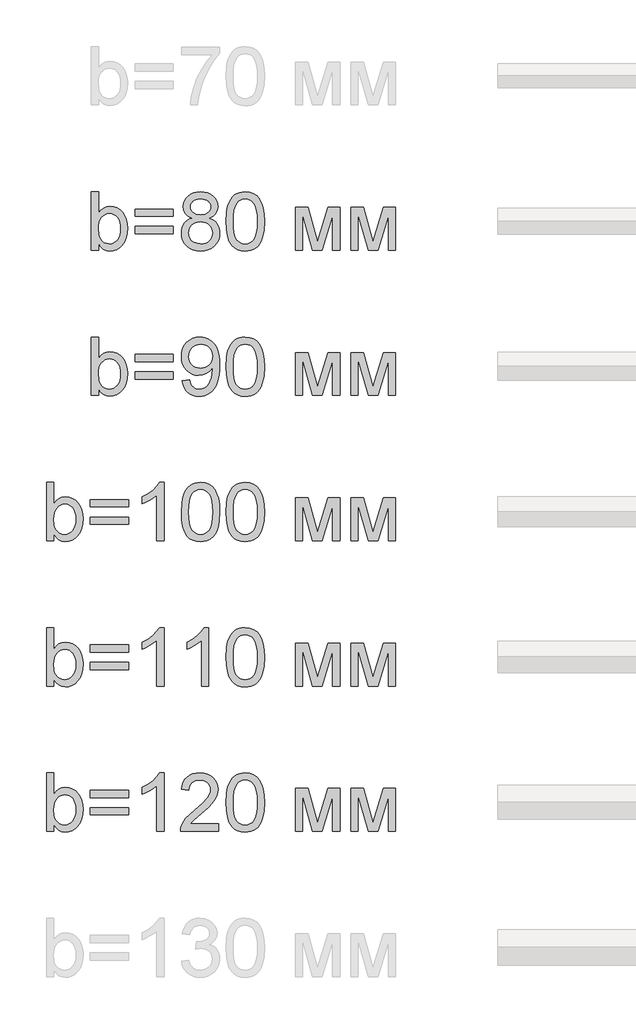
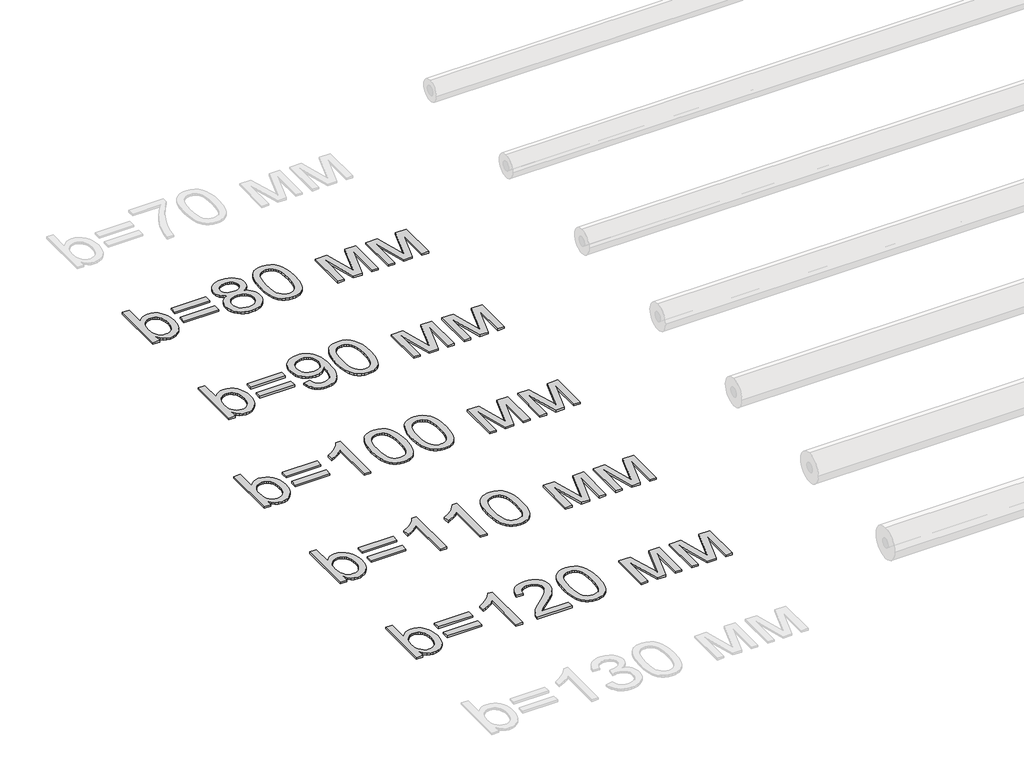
# One storey, part 45 of 86: 5 proxies.
"""IFC4 building model written with IfcOpenShell, lengths in millimetres."""

from ifc_helpers import new_model, si_unit, origin, origin_with_axes, place, context, project, spatial, polyline, outline, extrude, element, save

model = new_model("IFC4")

# Units and contexts
model_context = context("Model", 3, world=origin())
ifc_project = project(units=[si_unit("LENGTHUNIT", "METRE", prefix="MILLI")], contexts=[model_context])

# Site, building, storey
site = spatial("IfcSite", under=ifc_project)
building = spatial("IfcBuilding", under=site)
storey = spatial("IfcBuildingStorey", under=building, Name="Уровень 1", Elevation=0.0)

# Proxies
placement = place(None, origin())
element("IfcBuildingElementProxy", 1, Name="Текст модели 1", ObjectType="Текст модели 1", at=placement, inside=storey, context=model_context, shape_type="SweptSolid", body=[
    extrude(outline(polyline([(-2840.3692012, 18669.2937088), (-2915.7114338, 18669.2937088), (-2915.7114338, 19272.0315697), (-2840.3692012, 19272.0315697), (-2840.3692012, 19048.5064694), (-2815.5923488, 19080.3742473), (-2787.6149231, 19103.1369457), (-2756.436924, 19116.7945648), (-2722.0583516, 19121.3471045), (-2683.2468011, 19117.2452202), (-2646.5689661, 19104.9395675), (-2614.1217742, 19085.2026984), (-2588.0021525, 19058.8071653), (-2567.5295195, 19026.0104854), (-2552.0232934, 18987.0701762), (-2542.2560264, 18943.6049185), (-2539.0002708, 18897.233393), (-2542.3709895, 18843.7249568), (-2552.4831459, 18796.6544555), (-2569.3367398, 18756.0218892), (-2592.9317712, 18721.8272577), (-2621.2540864, 18694.7235517), (-2652.2895312, 18675.3637617), (-2686.0381057, 18663.7478877), (-2722.49981, 18659.8759297), (-2758.0096195, 18664.8699278), (-2789.4911213, 18679.8519221), (-2816.9443152, 18704.8219125), (-2840.3692012, 18739.7798991), (-2840.3692012, 18669.2937088)]), holes=[polyline([(-2840.3692012, 18893.7017259), (-2835.2188533, 18830.8674811), (-2828.7809184, 18807.065516), (-2819.7678095, 18788.3403224), (-2801.5116655, 18765.0993774), (-2780.2940714, 18748.4987024), (-2756.1150273, 18738.5382973), (-2728.9745331, 18735.2181623), (-2706.4417609, 18737.6645776), (-2685.4908812, 18745.0038234), (-2666.1218942, 18757.2358997), (-2648.3347997, 18774.3608066), (-2633.4631701, 18796.3325588), (-2622.8405775, 18823.105171), (-2616.4670219, 18854.6786432), (-2614.3425034, 18891.0529755), (-2616.3796499, 18928.1170865), (-2622.4910896, 18959.9940614), (-2632.6768223, 18986.6839001), (-2646.9368481, 19008.1866028), (-2664.0847476, 19024.7320955), (-2682.9341014, 19036.5503046), (-2703.4849093, 19043.64123), (-2725.7371715, 19046.0048719), (-2748.2699437, 19043.5584566), (-2769.2208233, 19036.2192108), (-2788.5898104, 19023.9871344), (-2806.3769049, 19006.8622276), (-2821.2485345, 18985.1112046), (-2831.8711271, 18959.00078), (-2838.2446827, 18928.5309538), (-2840.3692012, 18893.7017259)])]), origin_with_axes(), (0.0, 0.0, 1.0), 20.0),
    extrude(outline(polyline([(-2068.1113169, 19017.7515346), (-2463.6580381, 19017.7515346), (-2463.6580381, 19093.0937672), (-2068.1113169, 19093.0937672), (-2068.1113169, 19017.7515346)])), origin_with_axes(), (0.0, 0.0, 1.0), 20.0),
    extrude(outline(polyline([(-2068.1113169, 18838.8137322), (-2463.6580381, 18838.8137322), (-2463.6580381, 18914.1559648), (-2068.1113169, 18914.1559648), (-2068.1113169, 18838.8137322)])), origin_with_axes(), (0.0, 0.0, 1.0), 20.0),
    extrude(outline(polyline([(-1873.5753179, 19001.2704212), (-1913.9135787, 19021.136049), (-1929.5715561, 19033.7176132), (-1942.2220982, 19048.065011), (-1958.9423349, 19081.5054844), (-1964.5157471, 19120.9056461), (-1961.4807206, 19151.6329897), (-1952.3756412, 19179.8035535), (-1937.2005089, 19205.4173374), (-1915.9553237, 19228.4743415), (-1889.6609581, 19247.5306288), (-1859.3382847, 19261.1422626), (-1824.9873034, 19269.3092429), (-1786.6080142, 19272.0315697), (-1748.0447841, 19269.2448636), (-1713.4362854, 19260.8847452), (-1682.7825181, 19246.9512147), (-1656.0834823, 19227.4442719), (-1634.452021, 19203.9366124), (-1619.0009772, 19178.0009317), (-1609.7303509, 19149.6372299), (-1606.6401422, 19118.8455069), (-1612.139978, 19080.7145381), (-1628.6394855, 19047.8442818), (-1641.0601014, 19033.593453), (-1656.3226056, 19021.0808667), (-1695.3732794, 19001.2704212), (-1670.6102226, 18990.7352006), (-1649.0017539, 18977.3764857), (-1630.5478733, 18961.1942764), (-1615.2485809, 18942.1885728), (-1603.2418323, 18920.7824392), (-1594.6655832, 18897.3989399), (-1589.5198338, 18872.0380749), (-1587.804584, 18844.6998441), (-1591.2074925, 18807.1206983), (-1601.4162178, 18772.6685494), (-1618.4307601, 18741.3433976), (-1642.2511193, 18713.1452426), (-1671.6264966, 18689.8399182), (-1705.3060933, 18673.1932579), (-1743.2899093, 18663.2052618), (-1785.5779446, 18659.8759297), (-1827.86598, 18663.2190574), (-1865.849796, 18673.2484402), (-1899.5293926, 18689.9640784), (-1928.90477, 18713.3659718), (-1952.7251291, 18741.7618633), (-1969.7396714, 18773.4594957), (-1979.9483968, 18808.458869), (-1983.3513052, 18846.7599833), (-1981.5670776, 18875.3444143), (-1976.2143945, 18901.5008242), (-1967.2932562, 18925.2292128), (-1954.8036624, 18946.5295804), (-1939.0215248, 18965.0156506), (-1920.2227549, 18980.3011475), (-1898.4073526, 18992.3860711), (-1873.5753179, 19001.2704212)]), holes=[polyline([(-1889.1735145, 19118.6983541), (-1887.5042499, 19101.4262944), (-1882.4964563, 19085.8097037), (-1874.1501335, 19071.848582), (-1862.4652816, 19059.5429293), (-1847.5890534, 19049.4997508), (-1829.6686018, 19042.3260519), (-1808.7039266, 19038.0218326), (-1784.6950278, 19036.5870928), (-1761.2793389, 19038.0126355), (-1740.7699176, 19042.2892637), (-1723.1667642, 19049.4169774), (-1708.4698784, 19059.3957765), (-1696.8815956, 19071.4439118), (-1688.6042507, 19084.7796342), (-1683.6378438, 19099.4029435), (-1681.9823748, 19115.3138398), (-1683.6930261, 19131.8455369), (-1688.8249799, 19147.0068736), (-1697.3782363, 19160.7978499), (-1709.3527952, 19173.2184658), (-1724.3807747, 19183.486972), (-1742.0942928, 19190.8216193), (-1762.4933494, 19195.2224076), (-1785.5779446, 19196.6893371), (-1808.8418823, 19195.2545973), (-1829.337508, 19190.950378), (-1847.0648216, 19183.7766791), (-1862.0238232, 19173.7335006), (-1873.9018132, 19161.6853652), (-1882.3860917, 19148.4967957), (-1887.4766588, 19134.167792), (-1889.1735145, 19118.6983541)]), polyline([(-1908.0090726, 18849.4087336), (-1904.8636816, 18820.5851793), (-1895.4275084, 18792.68133), (-1878.0082959, 18768.345936), (-1850.913787, 18750.2277477), (-1818.466595, 18738.9705587), (-1784.9893334, 18735.2181623), (-1757.7476717, 18737.1909295), (-1733.7065833, 18743.1092311), (-1712.8660683, 18752.9730671), (-1695.2261266, 18766.7824375), (-1681.1914285, 18783.6360314), (-1671.1666441, 18802.632538), (-1665.1517735, 18823.7719571), (-1663.1468166, 18847.0542889), (-1665.2161529, 18870.7091012), (-1671.4241615, 18892.2301979), (-1681.7708426, 18911.617579), (-1696.2561962, 18928.8712446), (-1714.3743845, 18943.0347014), (-1735.6195697, 18953.1514563), (-1759.9917519, 18959.2215092), (-1787.490931, 18961.2448602), (-1814.3325211, 18959.2491003), (-1838.0563112, 18953.2618209), (-1858.6623015, 18943.2830218), (-1876.1504918, 18929.312703), (-1890.0886209, 18912.344146), (-1900.0444274, 18893.3706321), (-1906.0179113, 18872.3921613), (-1908.0090726, 18849.4087336)])]), origin_with_axes(), (0.0, 0.0, 1.0), 20.0),
    extrude(outline(polyline([(-1521.8801305, 18965.8065969), (-1516.3435065, 19062.2836501), (-1509.4227264, 19103.1967265), (-1499.7336344, 19139.2261694), (-1487.317617, 19170.6662845), (-1472.2160611, 19197.8113772), (-1454.4289667, 19220.6614476), (-1433.9563336, 19239.2164957), (-1410.7291842, 19253.5730906), (-1384.6785404, 19263.8278012), (-1355.8044023, 19269.9806276), (-1324.1067699, 19272.0315697), (-1277.6800621, 19267.1755274), (-1236.1093966, 19252.6074004), (-1201.3445481, 19228.8974058), (-1175.335291, 19196.6157607), (-1155.6903925, 19156.0383766), (-1140.0186195, 19107.4411651), (-1129.7547118, 19045.7289604), (-1126.3334093, 18965.8065969), (-1131.814851, 18869.8813667), (-1138.6666532, 18829.106246), (-1148.2591762, 18793.1227884), (-1160.5786245, 18761.6688778), (-1175.6112025, 18734.4823983), (-1193.3569103, 18711.56335), (-1213.8157477, 18692.9117329), (-1237.0704884, 18678.458569), (-1263.2039056, 18668.1348805), (-1292.2159994, 18661.9406674), (-1324.1067699, 18659.8759297), (-1365.6038589, 18663.4627792), (-1402.3920585, 18674.2233275), (-1434.4713684, 18692.1575748), (-1461.8417889, 18717.265521), (-1488.1085633, 18762.6529621), (-1506.8705451, 18819.2056218), (-1518.1277341, 18886.9235001), (-1521.8801305, 18965.8065969)]), holes=[polyline([(-1446.5378979, 18965.9537497), (-1444.3306059, 18900.456959), (-1437.70873, 18847.440565), (-1426.6722701, 18806.9045676), (-1411.2212263, 18778.848967), (-1392.532821, 18759.7604899), (-1371.7842765, 18746.1258635), (-1348.9755928, 18737.9450876), (-1324.1067699, 18735.2181623), (-1299.237947, 18737.9542847), (-1276.4292633, 18746.1626517), (-1255.6807188, 18759.8432634), (-1236.9923134, 18778.9961198), (-1221.5412696, 18807.0977057), (-1210.5048098, 18847.624506), (-1203.8829339, 18900.5765206), (-1201.6756419, 18965.9537497), (-1203.8093575, 19029.7168965), (-1210.2105042, 19081.79979), (-1220.879082, 19122.2024301), (-1235.815091, 19150.9248169), (-1254.1907967, 19170.9467945), (-1275.1784645, 19185.248207), (-1298.7780945, 19193.8290546), (-1324.9896867, 19196.6893371), (-1349.7297508, 19194.1693454), (-1372.1521585, 19186.6093704), (-1392.2569095, 19174.0094121), (-1410.044004, 19156.3694704), (-1426.0100825, 19125.0995008), (-1437.4144244, 19082.9402242), (-1444.2570295, 19029.8916405), (-1446.5378979, 18965.9537497)])]), origin_with_axes(), (0.0, 0.0, 1.0), 20.0),
    extrude(outline(polyline([(-806.1289207, 19111.9293254), (-676.4873056, 19111.9293254), (-576.5705557, 18757.5853876), (-468.8547075, 19111.9293254), (-344.6577459, 19111.9293254), (-344.6577459, 18669.2937088), (-419.9999785, 18669.2937088), (-419.9999785, 19025.6977857), (-528.3044379, 18669.2937088), (-627.1911182, 18669.2937088), (-730.7866881, 19042.7675103), (-730.7866881, 18669.2937088), (-806.1289207, 18669.2937088), (-806.1289207, 19111.9293254)])), origin_with_axes(), (0.0, 0.0, 1.0), 20.0),
    extrude(outline(polyline([(-231.644397, 19111.9293254), (-102.0027819, 19111.9293254), (-2.086032, 18757.5853876), (105.6298162, 19111.9293254), (229.8267777, 19111.9293254), (229.8267777, 18669.2937088), (154.4845451, 18669.2937088), (154.4845451, 19025.6977857), (46.1800857, 18669.2937088), (-52.7065946, 18669.2937088), (-156.3021644, 19042.7675103), (-156.3021644, 18669.2937088), (-231.644397, 18669.2937088), (-231.644397, 19111.9293254)])), origin_with_axes(), (0.0, 0.0, 1.0), 20.0),
])
element("IfcBuildingElementProxy", 2, Name="Текст модели 1", ObjectType="Текст модели 1", at=placement, inside=storey, context=model_context, shape_type="SweptSolid", body=[
    extrude(outline(polyline([(-2840.3692012, 17169.2937088), (-2915.7114338, 17169.2937088), (-2915.7114338, 17772.0315697), (-2840.3692012, 17772.0315697), (-2840.3692012, 17548.5064694), (-2815.5923488, 17580.3742473), (-2787.6149231, 17603.1369457), (-2756.436924, 17616.7945648), (-2722.0583516, 17621.3471045), (-2683.2468011, 17617.2452202), (-2646.5689661, 17604.9395675), (-2614.1217742, 17585.2026984), (-2588.0021525, 17558.8071653), (-2567.5295195, 17526.0104854), (-2552.0232934, 17487.0701762), (-2542.2560264, 17443.6049185), (-2539.0002708, 17397.233393), (-2542.3709895, 17343.7249568), (-2552.4831459, 17296.6544555), (-2569.3367398, 17256.0218892), (-2592.9317712, 17221.8272577), (-2621.2540864, 17194.7235517), (-2652.2895312, 17175.3637617), (-2686.0381057, 17163.7478877), (-2722.49981, 17159.8759297), (-2758.0096195, 17164.8699278), (-2789.4911213, 17179.8519221), (-2816.9443152, 17204.8219125), (-2840.3692012, 17239.7798991), (-2840.3692012, 17169.2937088)]), holes=[polyline([(-2840.3692012, 17393.7017259), (-2835.2188533, 17330.8674811), (-2828.7809184, 17307.065516), (-2819.7678095, 17288.3403224), (-2801.5116655, 17265.0993774), (-2780.2940714, 17248.4987024), (-2756.1150273, 17238.5382973), (-2728.9745331, 17235.2181623), (-2706.4417609, 17237.6645776), (-2685.4908812, 17245.0038234), (-2666.1218942, 17257.2358997), (-2648.3347997, 17274.3608066), (-2633.4631701, 17296.3325588), (-2622.8405775, 17323.105171), (-2616.4670219, 17354.6786432), (-2614.3425034, 17391.0529755), (-2616.3796499, 17428.1170865), (-2622.4910896, 17459.9940614), (-2632.6768223, 17486.6839001), (-2646.9368481, 17508.1866028), (-2664.0847476, 17524.7320955), (-2682.9341014, 17536.5503046), (-2703.4849093, 17543.64123), (-2725.7371715, 17546.0048719), (-2748.2699437, 17543.5584566), (-2769.2208233, 17536.2192108), (-2788.5898104, 17523.9871344), (-2806.3769049, 17506.8622276), (-2821.2485345, 17485.1112046), (-2831.8711271, 17459.00078), (-2838.2446827, 17428.5309538), (-2840.3692012, 17393.7017259)])]), origin_with_axes(), (0.0, 0.0, 1.0), 20.0),
    extrude(outline(polyline([(-2068.1113169, 17517.7515346), (-2463.6580381, 17517.7515346), (-2463.6580381, 17593.0937672), (-2068.1113169, 17593.0937672), (-2068.1113169, 17517.7515346)])), origin_with_axes(), (0.0, 0.0, 1.0), 20.0),
    extrude(outline(polyline([(-2068.1113169, 17338.8137322), (-2463.6580381, 17338.8137322), (-2463.6580381, 17414.1559648), (-2068.1113169, 17414.1559648), (-2068.1113169, 17338.8137322)])), origin_with_axes(), (0.0, 0.0, 1.0), 20.0),
    extrude(outline(polyline([(-1973.9335262, 17319.978174), (-1898.5912936, 17329.3959531), (-1885.7154237, 17286.6296712), (-1876.2424623, 17270.3646884), (-1864.74615, 17257.5118112), (-1851.3552454, 17247.7583398), (-1836.1985072, 17240.7915746), (-1800.58753, 17235.2181623), (-1768.6369788, 17238.8050118), (-1739.5926952, 17249.5655601), (-1715.4596364, 17266.322585), (-1698.242759, 17287.898864), (-1685.2013423, 17316.2625659), (-1673.5946653, 17353.3818592), (-1665.427685, 17395.9825942), (-1662.7053582, 17440.7906212), (-1663.1468166, 17455.505901), (-1689.2480442, 17423.6473203), (-1723.4058875, 17398.4106154), (-1763.155537, 17381.9662902), (-1806.0321836, 17376.4848485), (-1841.8225032, 17379.8325746), (-1874.7341462, 17389.8757531), (-1904.7671125, 17406.6143839), (-1931.9214023, 17430.048467), (-1954.4219848, 17458.9547948), (-1970.4938295, 17492.1101596), (-1980.1369363, 17529.5145614), (-1983.3513052, 17571.1680003), (-1979.9805865, 17614.2101938), (-1969.8684301, 17652.8378033), (-1953.0148362, 17687.0508288), (-1929.4198047, 17716.8492704), (-1900.7480017, 17740.9915264), (-1868.6640932, 17758.2359949), (-1833.1680792, 17768.582676), (-1794.2599597, 17772.0315697), (-1765.5329744, 17770.063401), (-1738.065985, 17764.158895), (-1711.8589913, 17754.3180516), (-1686.9119935, 17740.5408709), (-1664.0573246, 17723.1216584), (-1644.1273175, 17702.3547198), (-1627.1219723, 17678.240055), (-1613.0412889, 17650.7776641), (-1602.0002305, 17618.3856544), (-1594.1137602, 17579.4821334), (-1589.3818781, 17534.0671011), (-1587.804584, 17482.1405575), (-1589.3772796, 17427.6066502), (-1594.0953661, 17378.9312638), (-1601.9588438, 17336.114398), (-1612.9677125, 17299.1560531), (-1627.0805855, 17267.154918), (-1644.2560762, 17239.209682), (-1664.4941844, 17215.3203449), (-1687.7949103, 17195.4869069), (-1713.6892043, 17179.9071044), (-1741.7080167, 17168.778674), (-1771.8513477, 17162.1016158), (-1804.1191972, 17159.8759297), (-1837.9551437, 17162.5016875), (-1868.5353345, 17170.3789607), (-1895.8597697, 17183.5077494), (-1919.9284493, 17201.8880536), (-1940.1343679, 17225.0232325), (-1955.8705202, 17252.4166456), (-1967.1369063, 17284.0682928), (-1973.9335262, 17319.978174)]), holes=[polyline([(-1663.1468166, 17572.9338339), (-1665.1793647, 17599.9363724), (-1671.2770087, 17623.9958548), (-1681.4397489, 17645.1122814), (-1695.667585, 17663.2856519), (-1713.2615414, 17677.8997642), (-1733.5226423, 17688.3384158), (-1756.4508877, 17694.6016068), (-1782.0462775, 17696.6893371), (-1808.4602047, 17694.4406584), (-1832.3725344, 17687.6946223), (-1853.7832665, 17676.4512288), (-1872.6924011, 17660.710478), (-1888.1434449, 17641.3920747), (-1899.1799047, 17619.415724), (-1905.8017807, 17594.7814259), (-1908.0090726, 17567.4891804), (-1905.9213423, 17543.0112321), (-1899.6581513, 17520.9337139), (-1889.2194997, 17501.2566257), (-1874.6053875, 17483.9799675), (-1856.4228199, 17469.9130797), (-1835.2788022, 17459.8653027), (-1811.1733344, 17453.8366365), (-1784.1064167, 17451.8270811), (-1758.8651133, 17453.8366365), (-1735.9690576, 17459.8653027), (-1715.4182496, 17469.9130797), (-1697.2126894, 17483.9799675), (-1682.3088701, 17501.5969165), (-1671.6632848, 17522.2948773), (-1665.2759337, 17546.0738497), (-1663.1468166, 17572.9338339)])]), origin_with_axes(), (0.0, 0.0, 1.0), 20.0),
    extrude(outline(polyline([(-1521.8801305, 17465.8065969), (-1516.3435065, 17562.2836501), (-1509.4227264, 17603.1967265), (-1499.7336344, 17639.2261694), (-1487.317617, 17670.6662845), (-1472.2160611, 17697.8113772), (-1454.4289667, 17720.6614476), (-1433.9563336, 17739.2164957), (-1410.7291842, 17753.5730906), (-1384.6785404, 17763.8278012), (-1355.8044023, 17769.9806276), (-1324.1067699, 17772.0315697), (-1277.6800621, 17767.1755274), (-1236.1093966, 17752.6074004), (-1201.3445481, 17728.8974058), (-1175.335291, 17696.6157607), (-1155.6903925, 17656.0383766), (-1140.0186195, 17607.4411651), (-1129.7547118, 17545.7289604), (-1126.3334093, 17465.8065969), (-1131.814851, 17369.8813667), (-1138.6666532, 17329.106246), (-1148.2591762, 17293.1227884), (-1160.5786245, 17261.6688778), (-1175.6112025, 17234.4823983), (-1193.3569103, 17211.56335), (-1213.8157477, 17192.9117329), (-1237.0704884, 17178.458569), (-1263.2039056, 17168.1348805), (-1292.2159994, 17161.9406674), (-1324.1067699, 17159.8759297), (-1365.6038589, 17163.4627792), (-1402.3920585, 17174.2233275), (-1434.4713684, 17192.1575748), (-1461.8417889, 17217.265521), (-1488.1085633, 17262.6529621), (-1506.8705451, 17319.2056218), (-1518.1277341, 17386.9235001), (-1521.8801305, 17465.8065969)]), holes=[polyline([(-1446.5378979, 17465.9537497), (-1444.3306059, 17400.456959), (-1437.70873, 17347.440565), (-1426.6722701, 17306.9045676), (-1411.2212263, 17278.848967), (-1392.532821, 17259.7604899), (-1371.7842765, 17246.1258635), (-1348.9755928, 17237.9450876), (-1324.1067699, 17235.2181623), (-1299.237947, 17237.9542847), (-1276.4292633, 17246.1626517), (-1255.6807188, 17259.8432634), (-1236.9923134, 17278.9961198), (-1221.5412696, 17307.0977057), (-1210.5048098, 17347.624506), (-1203.8829339, 17400.5765206), (-1201.6756419, 17465.9537497), (-1203.8093575, 17529.7168965), (-1210.2105042, 17581.79979), (-1220.879082, 17622.2024301), (-1235.815091, 17650.9248169), (-1254.1907967, 17670.9467945), (-1275.1784645, 17685.248207), (-1298.7780945, 17693.8290546), (-1324.9896867, 17696.6893371), (-1349.7297508, 17694.1693454), (-1372.1521585, 17686.6093704), (-1392.2569095, 17674.0094121), (-1410.044004, 17656.3694704), (-1426.0100825, 17625.0995008), (-1437.4144244, 17582.9402242), (-1444.2570295, 17529.8916405), (-1446.5378979, 17465.9537497)])]), origin_with_axes(), (0.0, 0.0, 1.0), 20.0),
    extrude(outline(polyline([(-806.1289207, 17611.9293254), (-676.4873056, 17611.9293254), (-576.5705557, 17257.5853876), (-468.8547075, 17611.9293254), (-344.6577459, 17611.9293254), (-344.6577459, 17169.2937088), (-419.9999785, 17169.2937088), (-419.9999785, 17525.6977857), (-528.3044379, 17169.2937088), (-627.1911182, 17169.2937088), (-730.7866881, 17542.7675103), (-730.7866881, 17169.2937088), (-806.1289207, 17169.2937088), (-806.1289207, 17611.9293254)])), origin_with_axes(), (0.0, 0.0, 1.0), 20.0),
    extrude(outline(polyline([(-231.644397, 17611.9293254), (-102.0027819, 17611.9293254), (-2.086032, 17257.5853876), (105.6298162, 17611.9293254), (229.8267777, 17611.9293254), (229.8267777, 17169.2937088), (154.4845451, 17169.2937088), (154.4845451, 17525.6977857), (46.1800857, 17169.2937088), (-52.7065946, 17169.2937088), (-156.3021644, 17542.7675103), (-156.3021644, 17169.2937088), (-231.644397, 17169.2937088), (-231.644397, 17611.9293254)])), origin_with_axes(), (0.0, 0.0, 1.0), 20.0),
])
element("IfcBuildingElementProxy", 3, Name="Текст модели 1", ObjectType="Текст модели 1", at=placement, inside=storey, context=model_context, shape_type="SweptSolid", body=[
    extrude(outline(polyline([(-3301.840376, 15669.2937088), (-3377.1826086, 15669.2937088), (-3377.1826086, 16272.0315697), (-3301.840376, 16272.0315697), (-3301.840376, 16048.5064694), (-3277.0635236, 16080.3742473), (-3249.0860978, 16103.1369457), (-3217.9080988, 16116.7945648), (-3183.5295263, 16121.3471045), (-3144.7179758, 16117.2452202), (-3108.0401409, 16104.9395675), (-3075.5929489, 16085.2026984), (-3049.4733273, 16058.8071653), (-3029.0006942, 16026.0104854), (-3013.4944681, 15987.0701762), (-3003.7272012, 15943.6049185), (-3000.4714455, 15897.233393), (-3003.8421643, 15843.7249568), (-3013.9543206, 15796.6544555), (-3030.8079145, 15756.0218892), (-3054.402946, 15721.8272577), (-3082.7252611, 15694.7235517), (-3113.7607059, 15675.3637617), (-3147.5092805, 15663.7478877), (-3183.9709847, 15659.8759297), (-3219.4807943, 15664.8699278), (-3250.962296, 15679.8519221), (-3278.4154899, 15704.8219125), (-3301.840376, 15739.7798991), (-3301.840376, 15669.2937088)]), holes=[polyline([(-3301.840376, 15893.7017259), (-3296.690028, 15830.8674811), (-3290.2520931, 15807.065516), (-3281.2389842, 15788.3403224), (-3262.9828402, 15765.0993774), (-3241.7652461, 15748.4987024), (-3217.586202, 15738.5382973), (-3190.4457078, 15735.2181623), (-3167.9129356, 15737.6645776), (-3146.962056, 15745.0038234), (-3127.5930689, 15757.2358997), (-3109.8059745, 15774.3608066), (-3094.9343448, 15796.3325588), (-3084.3117522, 15823.105171), (-3077.9381966, 15854.6786432), (-3075.8136781, 15891.0529755), (-3077.8508247, 15928.1170865), (-3083.9622643, 15959.9940614), (-3094.1479971, 15986.6839001), (-3108.4080229, 16008.1866028), (-3125.5559224, 16024.7320955), (-3144.4052761, 16036.5503046), (-3164.9560841, 16043.64123), (-3187.2083463, 16046.0048719), (-3209.7411185, 16043.5584566), (-3230.6919981, 16036.2192108), (-3250.0609851, 16023.9871344), (-3267.8480796, 16006.8622276), (-3282.7197093, 15985.1112046), (-3293.3423019, 15959.00078), (-3299.7158574, 15928.5309538), (-3301.840376, 15893.7017259)])]), origin_with_axes(), (0.0, 0.0, 1.0), 20.0),
    extrude(outline(polyline([(-2529.5824917, 16017.7515346), (-2925.1292129, 16017.7515346), (-2925.1292129, 16093.0937672), (-2529.5824917, 16093.0937672), (-2529.5824917, 16017.7515346)])), origin_with_axes(), (0.0, 0.0, 1.0), 20.0),
    extrude(outline(polyline([(-2529.5824917, 15838.8137322), (-2925.1292129, 15838.8137322), (-2925.1292129, 15914.1559648), (-2529.5824917, 15914.1559648), (-2529.5824917, 15838.8137322)])), origin_with_axes(), (0.0, 0.0, 1.0), 20.0),
    extrude(outline(polyline([(-2162.2891077, 15669.2937088), (-2237.6313403, 15669.2937088), (-2237.6313403, 16139.0054402), (-2269.0852509, 16113.5664003), (-2309.0004474, 16088.1641485), (-2350.9022066, 16065.9624701), (-2388.3158055, 16050.1251502), (-2388.3158055, 16121.3471045), (-2329.1419866, 16153.5367791), (-2277.8776306, 16191.8332947), (-2237.4657934, 16232.5578316), (-2210.8495311, 16272.0315697), (-2162.2891077, 16272.0315697), (-2162.2891077, 15669.2937088)])), origin_with_axes(), (0.0, 0.0, 1.0), 20.0),
    extrude(outline(polyline([(-1983.3513052, 15965.8065969), (-1977.8146812, 16062.2836501), (-1970.8939012, 16103.1967265), (-1961.2048091, 16139.2261694), (-1948.7887918, 16170.6662845), (-1933.6872359, 16197.8113772), (-1915.9001414, 16220.6614476), (-1895.4275084, 16239.2164957), (-1872.2003589, 16253.5730906), (-1846.1497151, 16263.8278012), (-1817.275577, 16269.9806276), (-1785.5779446, 16272.0315697), (-1739.1512368, 16267.1755274), (-1697.5805714, 16252.6074004), (-1662.8157228, 16228.8974058), (-1636.8064658, 16196.6157607), (-1617.1615672, 16156.0383766), (-1601.4897942, 16107.4411651), (-1591.2258866, 16045.7289604), (-1587.804584, 15965.8065969), (-1593.2860258, 15869.8813667), (-1600.1378279, 15829.106246), (-1609.7303509, 15793.1227884), (-1622.0497993, 15761.6688778), (-1637.0823773, 15734.4823983), (-1654.828085, 15711.56335), (-1675.2869225, 15692.9117329), (-1698.5416631, 15678.458569), (-1724.6750803, 15668.1348805), (-1753.6871742, 15661.9406674), (-1785.5779446, 15659.8759297), (-1827.0750337, 15663.4627792), (-1863.8632332, 15674.2233275), (-1895.9425432, 15692.1575748), (-1923.3129636, 15717.265521), (-1949.5797381, 15762.6529621), (-1968.3417198, 15819.2056218), (-1979.5989089, 15886.9235001), (-1983.3513052, 15965.8065969)]), holes=[polyline([(-1908.0090726, 15965.9537497), (-1905.8017807, 15900.456959), (-1899.1799047, 15847.440565), (-1888.1434449, 15806.9045676), (-1872.6924011, 15778.848967), (-1854.0039957, 15759.7604899), (-1833.2554512, 15746.1258635), (-1810.4467675, 15737.9450876), (-1785.5779446, 15735.2181623), (-1760.7091218, 15737.9542847), (-1737.9004381, 15746.1626517), (-1717.1518935, 15759.8432634), (-1698.4634882, 15778.9961198), (-1683.0124444, 15807.0977057), (-1671.9759845, 15847.624506), (-1665.3541086, 15900.5765206), (-1663.1468166, 15965.9537497), (-1665.2805322, 16029.7168965), (-1671.6816789, 16081.79979), (-1682.3502568, 16122.2024301), (-1697.2862658, 16150.9248169), (-1715.6619715, 16170.9467945), (-1736.6496393, 16185.248207), (-1760.2492693, 16193.8290546), (-1786.4608614, 16196.6893371), (-1811.2009256, 16194.1693454), (-1833.6233332, 16186.6093704), (-1853.7280842, 16174.0094121), (-1871.5151787, 16156.3694704), (-1887.4812573, 16125.0995008), (-1898.8855991, 16082.9402242), (-1905.7282043, 16029.8916405), (-1908.0090726, 15965.9537497)])]), origin_with_axes(), (0.0, 0.0, 1.0), 20.0),
    extrude(outline(polyline([(-1521.8801305, 15965.8065969), (-1516.3435065, 16062.2836501), (-1509.4227264, 16103.1967265), (-1499.7336344, 16139.2261694), (-1487.317617, 16170.6662845), (-1472.2160611, 16197.8113772), (-1454.4289667, 16220.6614476), (-1433.9563336, 16239.2164957), (-1410.7291842, 16253.5730906), (-1384.6785404, 16263.8278012), (-1355.8044023, 16269.9806276), (-1324.1067699, 16272.0315697), (-1277.6800621, 16267.1755274), (-1236.1093966, 16252.6074004), (-1201.3445481, 16228.8974058), (-1175.335291, 16196.6157607), (-1155.6903925, 16156.0383766), (-1140.0186195, 16107.4411651), (-1129.7547118, 16045.7289604), (-1126.3334093, 15965.8065969), (-1131.814851, 15869.8813667), (-1138.6666532, 15829.106246), (-1148.2591762, 15793.1227884), (-1160.5786245, 15761.6688778), (-1175.6112025, 15734.4823983), (-1193.3569103, 15711.56335), (-1213.8157477, 15692.9117329), (-1237.0704884, 15678.458569), (-1263.2039056, 15668.1348805), (-1292.2159994, 15661.9406674), (-1324.1067699, 15659.8759297), (-1365.6038589, 15663.4627792), (-1402.3920585, 15674.2233275), (-1434.4713684, 15692.1575748), (-1461.8417889, 15717.265521), (-1488.1085633, 15762.6529621), (-1506.8705451, 15819.2056218), (-1518.1277341, 15886.9235001), (-1521.8801305, 15965.8065969)]), holes=[polyline([(-1446.5378979, 15965.9537497), (-1444.3306059, 15900.456959), (-1437.70873, 15847.440565), (-1426.6722701, 15806.9045676), (-1411.2212263, 15778.848967), (-1392.532821, 15759.7604899), (-1371.7842765, 15746.1258635), (-1348.9755928, 15737.9450876), (-1324.1067699, 15735.2181623), (-1299.237947, 15737.9542847), (-1276.4292633, 15746.1626517), (-1255.6807188, 15759.8432634), (-1236.9923134, 15778.9961198), (-1221.5412696, 15807.0977057), (-1210.5048098, 15847.624506), (-1203.8829339, 15900.5765206), (-1201.6756419, 15965.9537497), (-1203.8093575, 16029.7168965), (-1210.2105042, 16081.79979), (-1220.879082, 16122.2024301), (-1235.815091, 16150.9248169), (-1254.1907967, 16170.9467945), (-1275.1784645, 16185.248207), (-1298.7780945, 16193.8290546), (-1324.9896867, 16196.6893371), (-1349.7297508, 16194.1693454), (-1372.1521585, 16186.6093704), (-1392.2569095, 16174.0094121), (-1410.044004, 16156.3694704), (-1426.0100825, 16125.0995008), (-1437.4144244, 16082.9402242), (-1444.2570295, 16029.8916405), (-1446.5378979, 15965.9537497)])]), origin_with_axes(), (0.0, 0.0, 1.0), 20.0),
    extrude(outline(polyline([(-806.1289207, 16111.9293254), (-676.4873056, 16111.9293254), (-576.5705557, 15757.5853876), (-468.8547075, 16111.9293254), (-344.6577459, 16111.9293254), (-344.6577459, 15669.2937088), (-419.9999785, 15669.2937088), (-419.9999785, 16025.6977857), (-528.3044379, 15669.2937088), (-627.1911182, 15669.2937088), (-730.7866881, 16042.7675103), (-730.7866881, 15669.2937088), (-806.1289207, 15669.2937088), (-806.1289207, 16111.9293254)])), origin_with_axes(), (0.0, 0.0, 1.0), 20.0),
    extrude(outline(polyline([(-231.644397, 16111.9293254), (-102.0027819, 16111.9293254), (-2.086032, 15757.5853876), (105.6298162, 16111.9293254), (229.8267777, 16111.9293254), (229.8267777, 15669.2937088), (154.4845451, 15669.2937088), (154.4845451, 16025.6977857), (46.1800857, 15669.2937088), (-52.7065946, 15669.2937088), (-156.3021644, 16042.7675103), (-156.3021644, 15669.2937088), (-231.644397, 15669.2937088), (-231.644397, 16111.9293254)])), origin_with_axes(), (0.0, 0.0, 1.0), 20.0),
])
element("IfcBuildingElementProxy", 4, Name="Текст модели 1", ObjectType="Текст модели 1", at=placement, inside=storey, context=model_context, shape_type="SweptSolid", body=[
    extrude(outline(polyline([(-3301.840376, 14169.2937088), (-3377.1826086, 14169.2937088), (-3377.1826086, 14772.0315697), (-3301.840376, 14772.0315697), (-3301.840376, 14548.5064694), (-3277.0635236, 14580.3742473), (-3249.0860978, 14603.1369457), (-3217.9080988, 14616.7945648), (-3183.5295263, 14621.3471045), (-3144.7179758, 14617.2452202), (-3108.0401409, 14604.9395675), (-3075.5929489, 14585.2026984), (-3049.4733273, 14558.8071653), (-3029.0006942, 14526.0104854), (-3013.4944681, 14487.0701762), (-3003.7272012, 14443.6049185), (-3000.4714455, 14397.233393), (-3003.8421643, 14343.7249568), (-3013.9543206, 14296.6544555), (-3030.8079145, 14256.0218892), (-3054.402946, 14221.8272577), (-3082.7252611, 14194.7235517), (-3113.7607059, 14175.3637617), (-3147.5092805, 14163.7478877), (-3183.9709847, 14159.8759297), (-3219.4807943, 14164.8699278), (-3250.962296, 14179.8519221), (-3278.4154899, 14204.8219125), (-3301.840376, 14239.7798991), (-3301.840376, 14169.2937088)]), holes=[polyline([(-3301.840376, 14393.7017259), (-3296.690028, 14330.8674811), (-3290.2520931, 14307.065516), (-3281.2389842, 14288.3403224), (-3262.9828402, 14265.0993774), (-3241.7652461, 14248.4987024), (-3217.586202, 14238.5382973), (-3190.4457078, 14235.2181623), (-3167.9129356, 14237.6645776), (-3146.962056, 14245.0038234), (-3127.5930689, 14257.2358997), (-3109.8059745, 14274.3608066), (-3094.9343448, 14296.3325588), (-3084.3117522, 14323.105171), (-3077.9381966, 14354.6786432), (-3075.8136781, 14391.0529755), (-3077.8508247, 14428.1170865), (-3083.9622643, 14459.9940614), (-3094.1479971, 14486.6839001), (-3108.4080229, 14508.1866028), (-3125.5559224, 14524.7320955), (-3144.4052761, 14536.5503046), (-3164.9560841, 14543.64123), (-3187.2083463, 14546.0048719), (-3209.7411185, 14543.5584566), (-3230.6919981, 14536.2192108), (-3250.0609851, 14523.9871344), (-3267.8480796, 14506.8622276), (-3282.7197093, 14485.1112046), (-3293.3423019, 14459.00078), (-3299.7158574, 14428.5309538), (-3301.840376, 14393.7017259)])]), origin_with_axes(), (0.0, 0.0, 1.0), 20.0),
    extrude(outline(polyline([(-2529.5824917, 14517.7515346), (-2925.1292129, 14517.7515346), (-2925.1292129, 14593.0937672), (-2529.5824917, 14593.0937672), (-2529.5824917, 14517.7515346)])), origin_with_axes(), (0.0, 0.0, 1.0), 20.0),
    extrude(outline(polyline([(-2529.5824917, 14338.8137322), (-2925.1292129, 14338.8137322), (-2925.1292129, 14414.1559648), (-2529.5824917, 14414.1559648), (-2529.5824917, 14338.8137322)])), origin_with_axes(), (0.0, 0.0, 1.0), 20.0),
    extrude(outline(polyline([(-2162.2891077, 14169.2937088), (-2237.6313403, 14169.2937088), (-2237.6313403, 14639.0054402), (-2269.0852509, 14613.5664003), (-2309.0004474, 14588.1641485), (-2350.9022066, 14565.9624701), (-2388.3158055, 14550.1251502), (-2388.3158055, 14621.3471045), (-2329.1419866, 14653.5367791), (-2277.8776306, 14691.8332947), (-2237.4657934, 14732.5578316), (-2210.8495311, 14772.0315697), (-2162.2891077, 14772.0315697), (-2162.2891077, 14169.2937088)])), origin_with_axes(), (0.0, 0.0, 1.0), 20.0),
    extrude(outline(polyline([(-1700.8179329, 14169.2937088), (-1776.1601656, 14169.2937088), (-1776.1601656, 14639.0054402), (-1807.6140761, 14613.5664003), (-1847.5292726, 14588.1641485), (-1889.4310319, 14565.9624701), (-1926.8446308, 14550.1251502), (-1926.8446308, 14621.3471045), (-1867.6708119, 14653.5367791), (-1816.4064558, 14691.8332947), (-1775.9946187, 14732.5578316), (-1749.3783563, 14772.0315697), (-1700.8179329, 14772.0315697), (-1700.8179329, 14169.2937088)])), origin_with_axes(), (0.0, 0.0, 1.0), 20.0),
    extrude(outline(polyline([(-1521.8801305, 14465.8065969), (-1516.3435065, 14562.2836501), (-1509.4227264, 14603.1967265), (-1499.7336344, 14639.2261694), (-1487.317617, 14670.6662845), (-1472.2160611, 14697.8113772), (-1454.4289667, 14720.6614476), (-1433.9563336, 14739.2164957), (-1410.7291842, 14753.5730906), (-1384.6785404, 14763.8278012), (-1355.8044023, 14769.9806276), (-1324.1067699, 14772.0315697), (-1277.6800621, 14767.1755274), (-1236.1093966, 14752.6074004), (-1201.3445481, 14728.8974058), (-1175.335291, 14696.6157607), (-1155.6903925, 14656.0383766), (-1140.0186195, 14607.4411651), (-1129.7547118, 14545.7289604), (-1126.3334093, 14465.8065969), (-1131.814851, 14369.8813667), (-1138.6666532, 14329.106246), (-1148.2591762, 14293.1227884), (-1160.5786245, 14261.6688778), (-1175.6112025, 14234.4823983), (-1193.3569103, 14211.56335), (-1213.8157477, 14192.9117329), (-1237.0704884, 14178.458569), (-1263.2039056, 14168.1348805), (-1292.2159994, 14161.9406674), (-1324.1067699, 14159.8759297), (-1365.6038589, 14163.4627792), (-1402.3920585, 14174.2233275), (-1434.4713684, 14192.1575748), (-1461.8417889, 14217.265521), (-1488.1085633, 14262.6529621), (-1506.8705451, 14319.2056218), (-1518.1277341, 14386.9235001), (-1521.8801305, 14465.8065969)]), holes=[polyline([(-1446.5378979, 14465.9537497), (-1444.3306059, 14400.456959), (-1437.70873, 14347.440565), (-1426.6722701, 14306.9045676), (-1411.2212263, 14278.848967), (-1392.532821, 14259.7604899), (-1371.7842765, 14246.1258635), (-1348.9755928, 14237.9450876), (-1324.1067699, 14235.2181623), (-1299.237947, 14237.9542847), (-1276.4292633, 14246.1626517), (-1255.6807188, 14259.8432634), (-1236.9923134, 14278.9961198), (-1221.5412696, 14307.0977057), (-1210.5048098, 14347.624506), (-1203.8829339, 14400.5765206), (-1201.6756419, 14465.9537497), (-1203.8093575, 14529.7168965), (-1210.2105042, 14581.79979), (-1220.879082, 14622.2024301), (-1235.815091, 14650.9248169), (-1254.1907967, 14670.9467945), (-1275.1784645, 14685.248207), (-1298.7780945, 14693.8290546), (-1324.9896867, 14696.6893371), (-1349.7297508, 14694.1693454), (-1372.1521585, 14686.6093704), (-1392.2569095, 14674.0094121), (-1410.044004, 14656.3694704), (-1426.0100825, 14625.0995008), (-1437.4144244, 14582.9402242), (-1444.2570295, 14529.8916405), (-1446.5378979, 14465.9537497)])]), origin_with_axes(), (0.0, 0.0, 1.0), 20.0),
    extrude(outline(polyline([(-806.1289207, 14611.9293254), (-676.4873056, 14611.9293254), (-576.5705557, 14257.5853876), (-468.8547075, 14611.9293254), (-344.6577459, 14611.9293254), (-344.6577459, 14169.2937088), (-419.9999785, 14169.2937088), (-419.9999785, 14525.6977857), (-528.3044379, 14169.2937088), (-627.1911182, 14169.2937088), (-730.7866881, 14542.7675103), (-730.7866881, 14169.2937088), (-806.1289207, 14169.2937088), (-806.1289207, 14611.9293254)])), origin_with_axes(), (0.0, 0.0, 1.0), 20.0),
    extrude(outline(polyline([(-231.644397, 14611.9293254), (-102.0027819, 14611.9293254), (-2.086032, 14257.5853876), (105.6298162, 14611.9293254), (229.8267777, 14611.9293254), (229.8267777, 14169.2937088), (154.4845451, 14169.2937088), (154.4845451, 14525.6977857), (46.1800857, 14169.2937088), (-52.7065946, 14169.2937088), (-156.3021644, 14542.7675103), (-156.3021644, 14169.2937088), (-231.644397, 14169.2937088), (-231.644397, 14611.9293254)])), origin_with_axes(), (0.0, 0.0, 1.0), 20.0),
])
element("IfcBuildingElementProxy", 5, Name="Текст модели 1", ObjectType="Текст модели 1", at=placement, inside=storey, context=model_context, shape_type="SweptSolid", body=[
    extrude(outline(polyline([(-3301.840376, 12669.2937088), (-3377.1826086, 12669.2937088), (-3377.1826086, 13272.0315697), (-3301.840376, 13272.0315697), (-3301.840376, 13048.5064694), (-3277.0635236, 13080.3742473), (-3249.0860978, 13103.1369457), (-3217.9080988, 13116.7945648), (-3183.5295263, 13121.3471045), (-3144.7179758, 13117.2452202), (-3108.0401409, 13104.9395675), (-3075.5929489, 13085.2026984), (-3049.4733273, 13058.8071653), (-3029.0006942, 13026.0104854), (-3013.4944681, 12987.0701762), (-3003.7272012, 12943.6049185), (-3000.4714455, 12897.233393), (-3003.8421643, 12843.7249568), (-3013.9543206, 12796.6544555), (-3030.8079145, 12756.0218892), (-3054.402946, 12721.8272577), (-3082.7252611, 12694.7235517), (-3113.7607059, 12675.3637617), (-3147.5092805, 12663.7478877), (-3183.9709847, 12659.8759297), (-3219.4807943, 12664.8699278), (-3250.962296, 12679.8519221), (-3278.4154899, 12704.8219125), (-3301.840376, 12739.7798991), (-3301.840376, 12669.2937088)]), holes=[polyline([(-3301.840376, 12893.7017259), (-3296.690028, 12830.8674811), (-3290.2520931, 12807.065516), (-3281.2389842, 12788.3403224), (-3262.9828402, 12765.0993774), (-3241.7652461, 12748.4987024), (-3217.586202, 12738.5382973), (-3190.4457078, 12735.2181623), (-3167.9129356, 12737.6645776), (-3146.962056, 12745.0038234), (-3127.5930689, 12757.2358997), (-3109.8059745, 12774.3608066), (-3094.9343448, 12796.3325588), (-3084.3117522, 12823.105171), (-3077.9381966, 12854.6786432), (-3075.8136781, 12891.0529755), (-3077.8508247, 12928.1170865), (-3083.9622643, 12959.9940614), (-3094.1479971, 12986.6839001), (-3108.4080229, 13008.1866028), (-3125.5559224, 13024.7320955), (-3144.4052761, 13036.5503046), (-3164.9560841, 13043.64123), (-3187.2083463, 13046.0048719), (-3209.7411185, 13043.5584566), (-3230.6919981, 13036.2192108), (-3250.0609851, 13023.9871344), (-3267.8480796, 13006.8622276), (-3282.7197093, 12985.1112046), (-3293.3423019, 12959.00078), (-3299.7158574, 12928.5309538), (-3301.840376, 12893.7017259)])]), origin_with_axes(), (0.0, 0.0, 1.0), 20.0),
    extrude(outline(polyline([(-2529.5824917, 13017.7515346), (-2925.1292129, 13017.7515346), (-2925.1292129, 13093.0937672), (-2529.5824917, 13093.0937672), (-2529.5824917, 13017.7515346)])), origin_with_axes(), (0.0, 0.0, 1.0), 20.0),
    extrude(outline(polyline([(-2529.5824917, 12838.8137322), (-2925.1292129, 12838.8137322), (-2925.1292129, 12914.1559648), (-2529.5824917, 12914.1559648), (-2529.5824917, 12838.8137322)])), origin_with_axes(), (0.0, 0.0, 1.0), 20.0),
    extrude(outline(polyline([(-2162.2891077, 12669.2937088), (-2237.6313403, 12669.2937088), (-2237.6313403, 13139.0054402), (-2269.0852509, 13113.5664003), (-2309.0004474, 13088.1641485), (-2350.9022066, 13065.9624701), (-2388.3158055, 13050.1251502), (-2388.3158055, 13121.3471045), (-2329.1419866, 13153.5367791), (-2277.8776306, 13191.8332947), (-2237.4657934, 13232.5578316), (-2210.8495311, 13272.0315697), (-2162.2891077, 13272.0315697), (-2162.2891077, 12669.2937088)])), origin_with_axes(), (0.0, 0.0, 1.0), 20.0),
    extrude(outline(polyline([(-1597.2223631, 12744.6359414), (-1597.2223631, 12669.2937088), (-1992.7690843, 12669.2937088), (-1991.1136153, 12695.8180007), (-1984.6756804, 12721.2386465), (-1966.0976397, 12761.8344247), (-1938.9111602, 12801.2161923), (-1899.5845749, 12842.4373698), (-1844.5862167, 12888.5513779), (-1763.2842957, 12960.7666136), (-1714.5031432, 13014.0727147), (-1700.275307, 13035.8513288), (-1690.1125669, 13057.3356373), (-1684.0149228, 13078.5256402), (-1681.9823748, 13099.4213376), (-1683.8999597, 13119.0800317), (-1689.6527144, 13137.1476362), (-1699.2406389, 13153.624151), (-1712.6637332, 13168.5095763), (-1729.1770362, 13180.8382216), (-1748.035587, 13189.6443969), (-1769.2393855, 13194.928102), (-1792.7884317, 13196.6893371), (-1817.5974738, 13194.9694888), (-1839.7853566, 13189.8099438), (-1859.3520802, 13181.2107021), (-1876.2976446, 13169.1717638), (-1890.0058475, 13154.0977991), (-1899.8604864, 13136.3934781), (-1905.8615615, 13116.0588008), (-1908.0090726, 13093.0937672), (-1983.3513052, 13102.5115463), (-1976.8719836, 13141.4058703), (-1965.0859642, 13175.3889696), (-1947.993247, 13204.4608442), (-1925.593832, 13228.6214943), (-1898.402754, 13247.6134023), (-1866.9350479, 13261.1790508), (-1831.1907135, 13269.31844), (-1791.169751, 13272.0315697), (-1750.7901035, 13269.0149373), (-1714.8526311, 13259.9650403), (-1683.3573338, 13244.8818785), (-1656.3042115, 13223.7654519), (-1634.5761812, 13198.1792592), (-1619.0561595, 13169.6867986), (-1609.7441465, 13138.2880704), (-1606.6401422, 13103.9830743), (-1609.9878683, 13067.9490329), (-1620.0310468, 13032.5403908), (-1637.8549295, 12996.5247435), (-1664.5447682, 12958.6696862), (-1707.090321, 12913.4753831), (-1772.4813456, 12855.4419984), (-1859.1543437, 12782.9692453), (-1893.14664, 12744.6359414), (-1597.2223631, 12744.6359414)])), origin_with_axes(), (0.0, 0.0, 1.0), 20.0),
    extrude(outline(polyline([(-1521.8801305, 12965.8065969), (-1516.3435065, 13062.2836501), (-1509.4227264, 13103.1967265), (-1499.7336344, 13139.2261694), (-1487.317617, 13170.6662845), (-1472.2160611, 13197.8113772), (-1454.4289667, 13220.6614476), (-1433.9563336, 13239.2164957), (-1410.7291842, 13253.5730906), (-1384.6785404, 13263.8278012), (-1355.8044023, 13269.9806276), (-1324.1067699, 13272.0315697), (-1277.6800621, 13267.1755274), (-1236.1093966, 13252.6074004), (-1201.3445481, 13228.8974058), (-1175.335291, 13196.6157607), (-1155.6903925, 13156.0383766), (-1140.0186195, 13107.4411651), (-1129.7547118, 13045.7289604), (-1126.3334093, 12965.8065969), (-1131.814851, 12869.8813667), (-1138.6666532, 12829.106246), (-1148.2591762, 12793.1227884), (-1160.5786245, 12761.6688778), (-1175.6112025, 12734.4823983), (-1193.3569103, 12711.56335), (-1213.8157477, 12692.9117329), (-1237.0704884, 12678.458569), (-1263.2039056, 12668.1348805), (-1292.2159994, 12661.9406674), (-1324.1067699, 12659.8759297), (-1365.6038589, 12663.4627792), (-1402.3920585, 12674.2233275), (-1434.4713684, 12692.1575748), (-1461.8417889, 12717.265521), (-1488.1085633, 12762.6529621), (-1506.8705451, 12819.2056218), (-1518.1277341, 12886.9235001), (-1521.8801305, 12965.8065969)]), holes=[polyline([(-1446.5378979, 12965.9537497), (-1444.3306059, 12900.456959), (-1437.70873, 12847.440565), (-1426.6722701, 12806.9045676), (-1411.2212263, 12778.848967), (-1392.532821, 12759.7604899), (-1371.7842765, 12746.1258635), (-1348.9755928, 12737.9450876), (-1324.1067699, 12735.2181623), (-1299.237947, 12737.9542847), (-1276.4292633, 12746.1626517), (-1255.6807188, 12759.8432634), (-1236.9923134, 12778.9961198), (-1221.5412696, 12807.0977057), (-1210.5048098, 12847.624506), (-1203.8829339, 12900.5765206), (-1201.6756419, 12965.9537497), (-1203.8093575, 13029.7168965), (-1210.2105042, 13081.79979), (-1220.879082, 13122.2024301), (-1235.815091, 13150.9248169), (-1254.1907967, 13170.9467945), (-1275.1784645, 13185.248207), (-1298.7780945, 13193.8290546), (-1324.9896867, 13196.6893371), (-1349.7297508, 13194.1693454), (-1372.1521585, 13186.6093704), (-1392.2569095, 13174.0094121), (-1410.044004, 13156.3694704), (-1426.0100825, 13125.0995008), (-1437.4144244, 13082.9402242), (-1444.2570295, 13029.8916405), (-1446.5378979, 12965.9537497)])]), origin_with_axes(), (0.0, 0.0, 1.0), 20.0),
    extrude(outline(polyline([(-806.1289207, 13111.9293254), (-676.4873056, 13111.9293254), (-576.5705557, 12757.5853876), (-468.8547075, 13111.9293254), (-344.6577459, 13111.9293254), (-344.6577459, 12669.2937088), (-419.9999785, 12669.2937088), (-419.9999785, 13025.6977857), (-528.3044379, 12669.2937088), (-627.1911182, 12669.2937088), (-730.7866881, 13042.7675103), (-730.7866881, 12669.2937088), (-806.1289207, 12669.2937088), (-806.1289207, 13111.9293254)])), origin_with_axes(), (0.0, 0.0, 1.0), 20.0),
    extrude(outline(polyline([(-231.644397, 13111.9293254), (-102.0027819, 13111.9293254), (-2.086032, 12757.5853876), (105.6298162, 13111.9293254), (229.8267777, 13111.9293254), (229.8267777, 12669.2937088), (154.4845451, 12669.2937088), (154.4845451, 13025.6977857), (46.1800857, 12669.2937088), (-52.7065946, 12669.2937088), (-156.3021644, 13042.7675103), (-156.3021644, 12669.2937088), (-231.644397, 12669.2937088), (-231.644397, 13111.9293254)])), origin_with_axes(), (0.0, 0.0, 1.0), 20.0),
])

save(model, "model.ifc")
